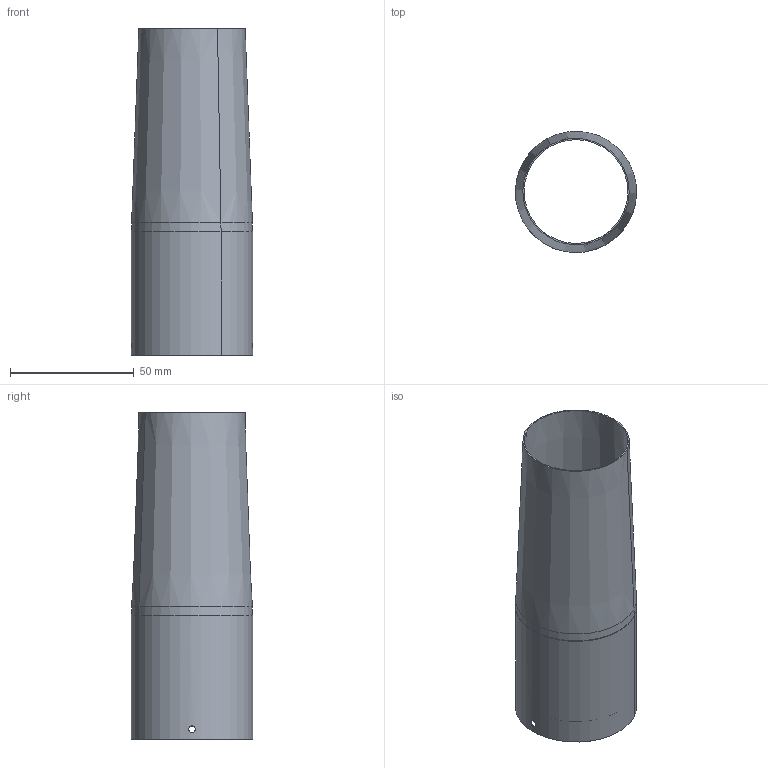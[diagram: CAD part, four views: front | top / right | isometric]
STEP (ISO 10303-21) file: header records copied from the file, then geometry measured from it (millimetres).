
FILE_DESCRIPTION(('CATIA V5 STEP Exchange','CAx-IF Rec.Pracs.--- Model Styling and Organization---1.4--- 2014-01-23','CAx-IF Rec.Pracs.---3D Tessellated Data Validation Properties---0.5---2014-09-14'),'2;1');
FILE_NAME('D:\CTA\NECTARCAM PROD\CTA-01 - Camera Module\CTA-0101 - Focal Plane Module\CTA-010104 - Mechanical Components\CTA-010104-005_2 - Aluminum_Tube.stp','2026-03-13T09:52:27+00:00',('none'),('none'),'CATIA Version 5-6 Release 2018 SP5 HF4','CATIA V5 STEP AP242','none');
FILE_SCHEMA(('AP242_MANAGED_MODEL_BASED_3D_ENGINEERING_MIM_LF {1 0 10303 442 1 1 4}'));
Length unit declared in the file: millimetre
Products named in the file (1): CTA-010104-005
Bounding box: 49 x 48.99 x 132 mm (x, y, z)
Volume: 9219.7 mm3; surface area: 38856.1 mm2
Topology: 1 solids, 1 shells, 24 faces, 52 edges, 30 vertices
Faces by surface type: cylinder 8, revolution 8, cone 6, plane 2
Entity records: 710 total; most frequent: CARTESIAN_POINT 220, ORIENTED_EDGE 104, DIRECTION 62, EDGE_CURVE 52, AXIS2_PLACEMENT_3D 32, EDGE_LOOP 30, VERTEX_POINT 30, ADVANCED_FACE 24
